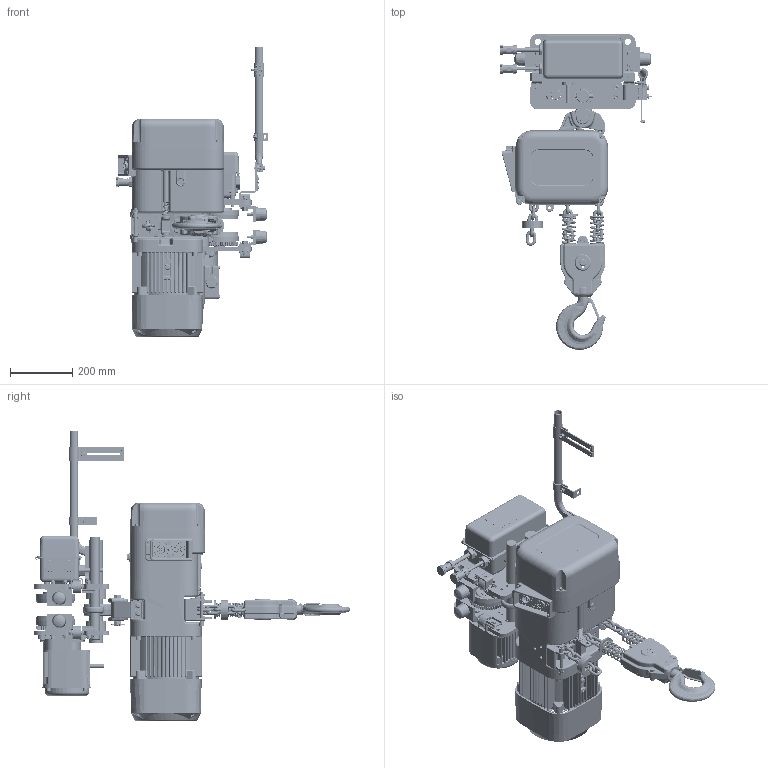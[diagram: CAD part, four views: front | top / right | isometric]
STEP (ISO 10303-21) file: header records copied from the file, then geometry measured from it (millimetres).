
FILE_DESCRIPTION (( 'STEP AP214' ), '1' );
FILE_NAME ('NER2M030C-L.STEP', '2026-08-06T13:31:57', ( '' ), ( '' ), 'SwSTEP 2.0', 'SolidWorks 2026', '' );
FILE_SCHEMA (( 'AUTOMOTIVE_DESIGN' ));
Length unit declared in the file: inch
Products named in the file (150): ES558003; ER1ES1041; MR1FS9201; ES041030; M6SE030S9101; J1PS31-050025; MR1FS9131_MR1FS9131; MR1FS9205; ER2ES9101; 6077801; LCER2020NP; ECP2108AC; ES127005S; 16-4 (MR2); ER2ER9030; MR1DS9493; J1BG10604024_J1BG10604024; MS1102030; MR1DS9501; ER2BHM20S9A5; hex cap screw_am_9093327; ER2EI2523; 90912107_B18.3.1M - 10 x 1.5 x 100 Hex SHCS -- 100CHX; ER2ES9103; MR1DS9481; MR1ES9218; 90912134; MS554010; ER1EM9053; MS527010; J1GR020-0630; ECP5924AH; NER2030C_FOR MOTORIZED TROLLEY; 9047125_B27.7M - 3AM1-23; T3P153050; E3S111003; ECP5924AC1; hex cap screw_am_9093328; LCER2020NP_14 LINKS; ER2ES9104_ER2ES9104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
Assembly tree (356 placements, depth 6):
  NER2M030C-L
    MR030L_4" FLANGE
      MR1FS5201
        MR1FS9201
        MR1FS9203  x2
        MR1FS9204
      MR1FS5202
        MR1FS9202
        MR1FS9203  x2
        MR1FS9205
      MS1101030  x2
        M6SE030S9101
        basic internal retaining ring_am_B27.7M - 3BM1-60
        J1GR020-0630
      MS1102030  x2
        M6SE030S9102
        basic internal retaining ring_am_B27.7M - 3BM1-60
        J1GR020-0630
      MR1ES9634  x4
      MS006020  x4
      MR1ES12112  x2
        M7SE020S91422
        J1PS31-050025
        MR1ES22111
        MR2DS92171
        MR1ES92151
        MR1ES9218
      MR1ES12112_Reversed  x2
        M7SE020S91422
        J1PS31-050025
        MR1ES22111
        MR2DS92171
        MR1ES92151
        MR1ES9218
      MR1FS9631  x4
      single coil rectangular section spring washer_bsi_9012711  x8
      hex nut style 1_am_9093424  x16
      9093351_9093351  x4
      spring lock washer_2_jis_9012712  x14
      9093352_9093352  x8
      9047125_B27.7M - 3AM1-23  x4
      70130XX_for (N)ERM (7013002)
        MR1DS9411
        MR1DS9401_1 - 8 TON & 10 L TON
        MR1DS9421
        MS554010  x12
        MR2DS2811
          ECP5924AH
          MS527010
          MR2DI1811
          ES558003  x4
        MS517010  x4
        MS551010  x4
        MR2DS1768
          60704
            ECP5924AA1
            ECP5924AD1
            ECP5924AC1
            KITO-WASHER
            ECP5924AB1
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Bounding box: 489.68 x 1016.71 x 931.46 mm (x, y, z)
Volume: 34781096.9 mm3; surface area: 4632252.6 mm2
Topology: 398 solids, 415 shells, 15959 faces, 41553 edges, 26443 vertices
Faces by surface type: plane 6671, cylinder 5049, cone 1508, bspline 1284, torus 1103, sphere 344
Entity records: 411751 total; most frequent: CARTESIAN_POINT 160114, ORIENTED_EDGE 51406, DIRECTION 49225, EDGE_CURVE 25705, AXIS2_PLACEMENT_3D 18509, VERTEX_POINT 16563, LINE 12207, VECTOR 12207
